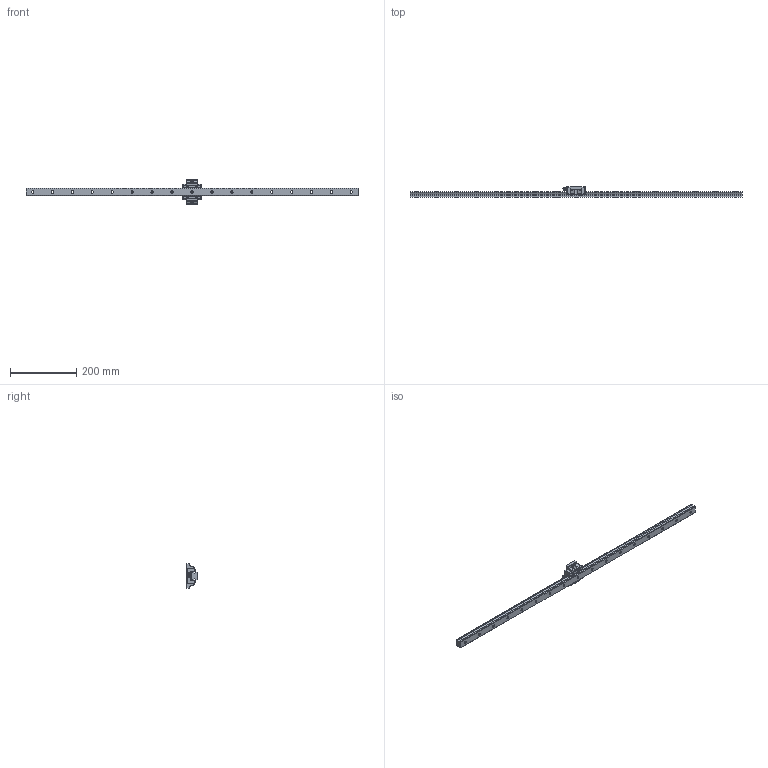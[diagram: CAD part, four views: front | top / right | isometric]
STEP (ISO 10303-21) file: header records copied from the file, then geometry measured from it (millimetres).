
FILE_DESCRIPTION(/* description */ ('STEP AP214'),/* implementation_level */ '2;1');
FILE_NAME(/* name */ 'SR25SB1SS-1000LY_G20_0_B-M6F_470-4_0_0_0',/* time_stamp */ '2023-08-14T11:28:46+02:00',/* author */ ('License CC BY-ND 4.0'),/* organization */ ('CADENAS'),/* preprocessor_version */ 'ST-DEVELOPER v19.3',/* originating_system */ 'PARTsolutions',/* authorisation */ ' ');
FILE_SCHEMA (('AUTOMOTIVE_DESIGN {1 0 10303 214 3 1 1}'));
Length unit declared in the file: millimetre
Products named in the file (4): SR25SB1SS-1000LY_G20_0_B-M6F_470-4_0_0_0_; SR-B-M6F_grease_nipple_joint; SR25SBYSSB-M6F Slide15-150; SR25TBY100020Y SB Track
Assembly tree (3 placements, depth 2):
  SR25SB1SS-1000LY_G20_0_B-M6F_470-4_0_0_0_
    SR-B-M6F_grease_nipple_joint
    SR25SBYSSB-M6F Slide15-150
    SR25TBY100020Y SB Track
Bounding box: 1000 x 33 x 73 mm (x, y, z)
Volume: 410786.4 mm3; surface area: 109712.5 mm2
Topology: 3 solids, 3 shells, 257 faces, 660 edges, 431 vertices
Faces by surface type: plane 167, cylinder 68, cone 13, torus 6, sphere 3
Full cylindrical faces by diameter (mm): 4.5 x4, 4.917 x2, 6 x1, 7 x19, 8 x1, 11 x17
Entity records: 7649 total; most frequent: CARTESIAN_POINT 1402, DIRECTION 1256, ORIENTED_EDGE 1184, EDGE_CURVE 592, AXIS2_PLACEMENT_3D 431, VERTEX_POINT 425, LINE 394, VECTOR 394
